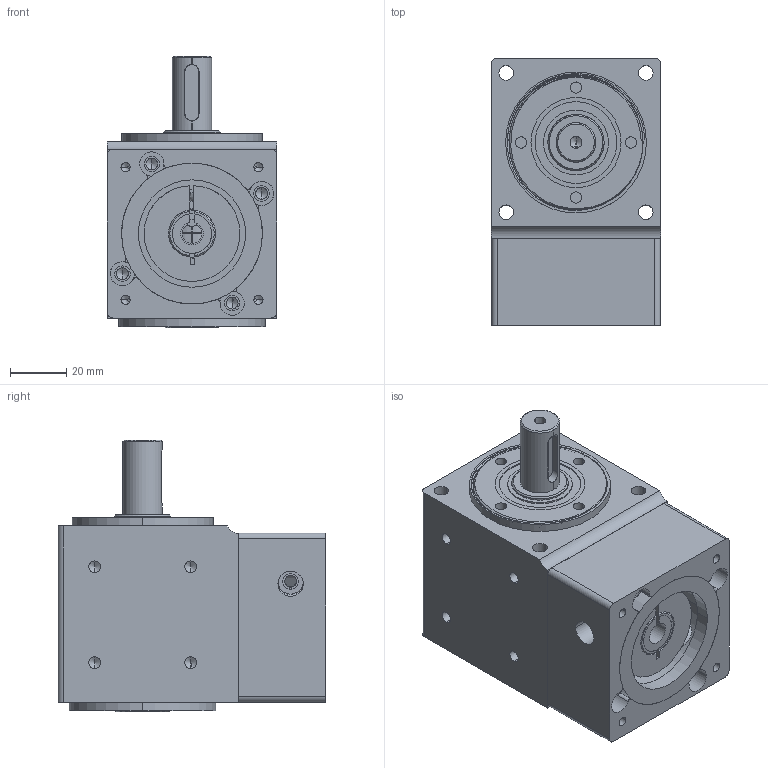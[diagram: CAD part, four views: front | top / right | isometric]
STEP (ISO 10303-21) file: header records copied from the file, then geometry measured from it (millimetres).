
FILE_DESCRIPTION (( 'STEP AP203' ), '1' );
FILE_NAME ('PVFD060-L1838667.STEP', '2021-08-23T03:09:29', ( 'Windows User' ), ( 'P R C' ), 'SwSTEP 2.0', 'SolidWorks 2016', '' );
FILE_SCHEMA (( 'CONFIG_CONTROL_DESIGN' ));
Length unit declared in the file: millimetre
Products named in the file (12): 步进垫圈; 蹟譫; PVFD060-L1838667; 60等粣怀堤粣; 输入轴; deep groove ball bearings gb_Rolling bearings 6003 GB 276-94; tapered roller bearings gb_Rolling bearings 30204 GB 297-94; 20-32-5蚐猾; 14-8粣杶; 褲极; 綴楊擘2ㄗ祭輛ㄘ; 標杶
Assembly tree (15 placements, depth 2):
  PVFD060-L1838667
    褲极
    標杶
    蹟譫  x2
    60等粣怀堤粣  x2
    输入轴
    deep groove ball bearings gb_Rolling bearings 6003 GB 276-94
    tapered roller bearings gb_Rolling bearings 30204 GB 297-94  x2
    20-32-5蚐猾  x2
    14-8粣杶
    綴楊擘2ㄗ祭輛ㄘ
    步进垫圈
Bounding box: 60 x 95 x 96.5 mm (x, y, z)
Volume: 295079.1 mm3; surface area: 129141.9 mm2
Topology: 29 solids, 29 shells, 1363 faces, 4156 edges, 2708 vertices
Faces by surface type: plane 493, bspline 414, cylinder 283, cone 173
Entity records: 51587 total; most frequent: CARTESIAN_POINT 23140, ORIENTED_EDGE 6434, DIRECTION 4690, EDGE_CURVE 3217, VERTEX_POINT 2122, AXIS2_PLACEMENT_3D 1718, EDGE_LOOP 1281, VECTOR 1254
